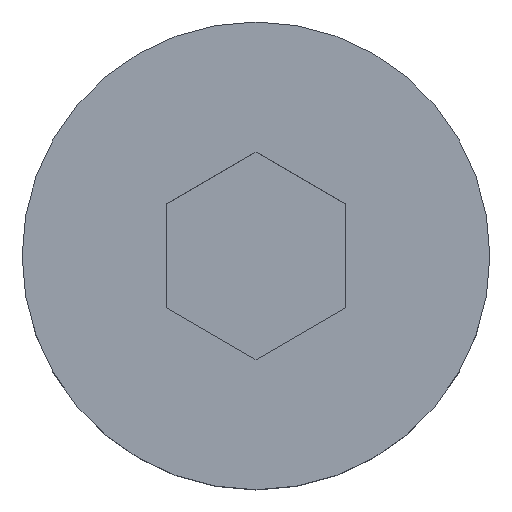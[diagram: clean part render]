
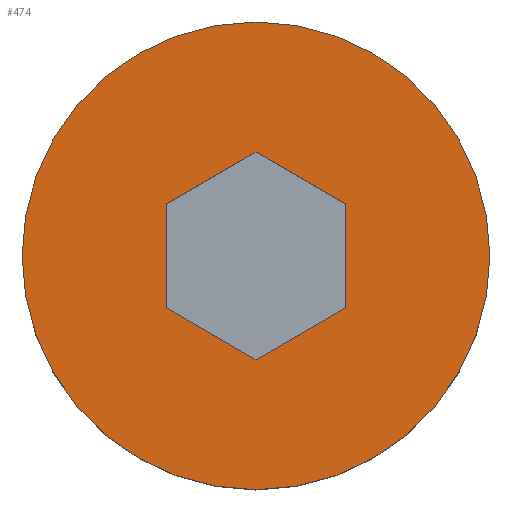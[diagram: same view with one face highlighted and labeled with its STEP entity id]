
A CAD part, top view. The second image highlights one B-rep face of the part: STEP entity #474.
In plain terms, the highlighted planar face has unit normal (0, 0, 1).
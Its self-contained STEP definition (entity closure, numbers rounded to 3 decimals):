
#1 = EDGE_CURVE ( 'NONE', #247, #798, #933, .T. ) ;
#16 = CARTESIAN_POINT ( 'NONE',  ( 0., 0., 8. ) ) ;
#20 = VERTEX_POINT ( 'NONE', #890 ) ;
#37 = LINE ( 'NONE', #1036, #735 ) ;
#77 = CARTESIAN_POINT ( 'NONE',  ( 7.25, 9.959, 8. ) ) ;
#85 = LINE ( 'NONE', #433, #1133 ) ;
#109 = EDGE_LOOP ( 'NONE', ( #847, #311, #1122, #219, #343, #670 ) ) ;
#116 = DIRECTION ( 'NONE',  ( 1., 0., 0. ) ) ;
#121 = VECTOR ( 'NONE', #557, 1000. ) ;
#132 = CIRCLE ( 'NONE', #758, 13. ) ;
#151 = CARTESIAN_POINT ( 'NONE',  ( 5., -2.887, 8. ) ) ;
#166 = CARTESIAN_POINT ( 'NONE',  ( -13., 0., 8. ) ) ;
#173 = DIRECTION ( 'NONE',  ( -0.866, -0.5, 0. ) ) ;
#175 = VERTEX_POINT ( 'NONE', #1129 ) ;
#196 = AXIS2_PLACEMENT_3D ( 'NONE', #437, #1067, #543 ) ;
#215 = EDGE_CURVE ( 'NONE', #1023, #247, #37, .T. ) ;
#219 = ORIENTED_EDGE ( 'NONE', *, *, #1, .F. ) ;
#247 = VERTEX_POINT ( 'NONE', #957 ) ;
#255 = CARTESIAN_POINT ( 'NONE',  ( 12.25, 1.299, 8. ) ) ;
#257 = CARTESIAN_POINT ( 'NONE',  ( 13., 0., 8. ) ) ;
#310 = EDGE_CURVE ( 'NONE', #798, #20, #748, .T. ) ;
#311 = ORIENTED_EDGE ( 'NONE', *, *, #1125, .F. ) ;
#330 = CARTESIAN_POINT ( 'NONE',  ( 5., 0., 8. ) ) ;
#331 = EDGE_LOOP ( 'NONE', ( #588, #1031 ) ) ;
#336 = CARTESIAN_POINT ( 'NONE',  ( 13., 0., 8. ) ) ;
#343 = ORIENTED_EDGE ( 'NONE', *, *, #215, .F. ) ;
#353 = DIRECTION ( 'NONE',  ( -1., 0., 0. ) ) ;
#374 = FACE_OUTER_BOUND ( 'NONE', #331, .T. ) ;
#379 = DIRECTION ( 'NONE',  ( 0., 1., 0. ) ) ;
#380 = EDGE_CURVE ( 'NONE', #807, #1146, #132, .T. ) ;
#433 = CARTESIAN_POINT ( 'NONE',  ( -5., 0., 8. ) ) ;
#436 = EDGE_CURVE ( 'NONE', #175, #1023, #85, .T. ) ;
#437 = CARTESIAN_POINT ( 'NONE',  ( 0., 0., 8. ) ) ;
#447 = EDGE_CURVE ( 'NONE', #1146, #807, #929, .T. ) ;
#474 = ADVANCED_FACE ( 'NONE', ( #374, #1101 ), #983, .F. ) ;
#535 = AXIS2_PLACEMENT_3D ( 'NONE', #257, #900, #353 ) ;
#543 = DIRECTION ( 'NONE',  ( 1., 0., 0. ) ) ;
#544 = EDGE_CURVE ( 'NONE', #1123, #175, #766, .T. ) ;
#557 = DIRECTION ( 'NONE',  ( -0.866, 0.5, 0. ) ) ;
#588 = ORIENTED_EDGE ( 'NONE', *, *, #380, .T. ) ;
#640 = LINE ( 'NONE', #1079, #121 ) ;
#670 = ORIENTED_EDGE ( 'NONE', *, *, #436, .F. ) ;
#688 = DIRECTION ( 'NONE',  ( 0., 0., 1. ) ) ;
#735 = VECTOR ( 'NONE', #872, 1000. ) ;
#748 = LINE ( 'NONE', #330, #1010 ) ;
#750 = DIRECTION ( 'NONE',  ( 0.866, 0.5, 0. ) ) ;
#758 = AXIS2_PLACEMENT_3D ( 'NONE', #16, #688, #116 ) ;
#766 = LINE ( 'NONE', #77, #853 ) ;
#783 = VECTOR ( 'NONE', #750, 1000. ) ;
#798 = VERTEX_POINT ( 'NONE', #151 ) ;
#801 = CARTESIAN_POINT ( 'NONE',  ( -5., -2.887, 8. ) ) ;
#807 = VERTEX_POINT ( 'NONE', #336 ) ;
#811 = CARTESIAN_POINT ( 'NONE',  ( 0., 5.774, 8. ) ) ;
#847 = ORIENTED_EDGE ( 'NONE', *, *, #544, .F. ) ;
#853 = VECTOR ( 'NONE', #173, 1000. ) ;
#872 = DIRECTION ( 'NONE',  ( 0.866, -0.5, 0. ) ) ;
#881 = DIRECTION ( 'NONE',  ( 0., -1., 0. ) ) ;
#890 = CARTESIAN_POINT ( 'NONE',  ( 5., 2.887, 8. ) ) ;
#900 = DIRECTION ( 'NONE',  ( 0., 0., -1. ) ) ;
#929 = CIRCLE ( 'NONE', #196, 13. ) ;
#933 = LINE ( 'NONE', #255, #783 ) ;
#957 = CARTESIAN_POINT ( 'NONE',  ( 0., -5.774, 8. ) ) ;
#983 = PLANE ( 'NONE',  #535 ) ;
#1010 = VECTOR ( 'NONE', #379, 1000. ) ;
#1023 = VERTEX_POINT ( 'NONE', #801 ) ;
#1031 = ORIENTED_EDGE ( 'NONE', *, *, #447, .T. ) ;
#1036 = CARTESIAN_POINT ( 'NONE',  ( 7.25, -9.959, 8. ) ) ;
#1067 = DIRECTION ( 'NONE',  ( 0., 0., 1. ) ) ;
#1079 = CARTESIAN_POINT ( 'NONE',  ( 12.25, -1.299, 8. ) ) ;
#1101 = FACE_BOUND ( 'NONE', #109, .T. ) ;
#1122 = ORIENTED_EDGE ( 'NONE', *, *, #310, .F. ) ;
#1123 = VERTEX_POINT ( 'NONE', #811 ) ;
#1125 = EDGE_CURVE ( 'NONE', #20, #1123, #640, .T. ) ;
#1129 = CARTESIAN_POINT ( 'NONE',  ( -5., 2.887, 8. ) ) ;
#1133 = VECTOR ( 'NONE', #881, 1000. ) ;
#1146 = VERTEX_POINT ( 'NONE', #166 ) ;
